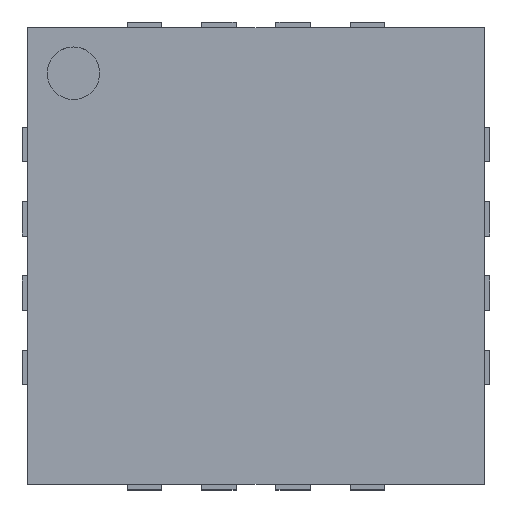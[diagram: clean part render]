
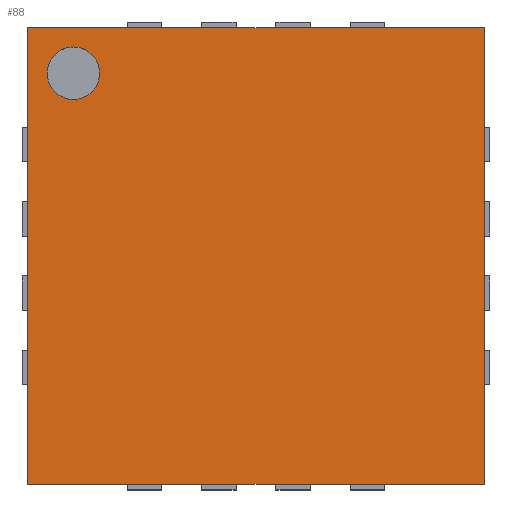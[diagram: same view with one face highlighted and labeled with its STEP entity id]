
A CAD part, top view. The second image highlights one B-rep face of the part: STEP entity #88.
In plain terms, the highlighted planar face has unit normal (0, 0, 1).
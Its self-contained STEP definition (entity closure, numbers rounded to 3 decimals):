
#24 = VERTEX_POINT('',#25);
#25 = CARTESIAN_POINT('',(-2.,-2.,1.05));
#40 = VERTEX_POINT('',#41);
#41 = CARTESIAN_POINT('',(-2.,2.,1.05));
#47 = EDGE_CURVE('',#24,#40,#48,.T.);
#48 = LINE('',#49,#50);
#49 = CARTESIAN_POINT('',(-2.,-2.,1.05));
#50 = VECTOR('',#51,1.);
#51 = DIRECTION('',(0.,1.,0.));
#70 = EDGE_CURVE('',#24,#71,#73,.T.);
#71 = VERTEX_POINT('',#72);
#72 = CARTESIAN_POINT('',(2.,-2.,1.05));
#73 = LINE('',#74,#75);
#74 = CARTESIAN_POINT('',(-2.,-2.,1.05));
#75 = VECTOR('',#76,1.);
#76 = DIRECTION('',(1.,0.,0.));
#88 = ADVANCED_FACE('',(#89,#107),#118,.T.);
#89 = FACE_BOUND('',#90,.T.);
#90 = EDGE_LOOP('',(#91,#92,#93,#101));
#91 = ORIENTED_EDGE('',*,*,#47,.F.);
#92 = ORIENTED_EDGE('',*,*,#70,.T.);
#93 = ORIENTED_EDGE('',*,*,#94,.T.);
#94 = EDGE_CURVE('',#71,#95,#97,.T.);
#95 = VERTEX_POINT('',#96);
#96 = CARTESIAN_POINT('',(2.,2.,1.05));
#97 = LINE('',#98,#99);
#98 = CARTESIAN_POINT('',(2.,-2.,1.05));
#99 = VECTOR('',#100,1.);
#100 = DIRECTION('',(0.,1.,0.));
#101 = ORIENTED_EDGE('',*,*,#102,.F.);
#102 = EDGE_CURVE('',#40,#95,#103,.T.);
#103 = LINE('',#104,#105);
#104 = CARTESIAN_POINT('',(-2.,2.,1.05));
#105 = VECTOR('',#106,1.);
#106 = DIRECTION('',(1.,0.,0.));
#107 = FACE_BOUND('',#108,.T.);
#108 = EDGE_LOOP('',(#109));
#109 = ORIENTED_EDGE('',*,*,#110,.F.);
#110 = EDGE_CURVE('',#111,#111,#113,.T.);
#111 = VERTEX_POINT('',#112);
#112 = CARTESIAN_POINT('',(-1.37,1.6,1.05));
#113 = CIRCLE('',#114,0.23);
#114 = AXIS2_PLACEMENT_3D('',#115,#116,#117);
#115 = CARTESIAN_POINT('',(-1.6,1.6,1.05));
#116 = DIRECTION('',(0.,0.,1.));
#117 = DIRECTION('',(1.,0.,0.));
#118 = PLANE('',#119);
#119 = AXIS2_PLACEMENT_3D('',#120,#121,#122);
#120 = CARTESIAN_POINT('',(-2.,-2.,1.05));
#121 = DIRECTION('',(0.,0.,1.));
#122 = DIRECTION('',(1.,0.,0.));
